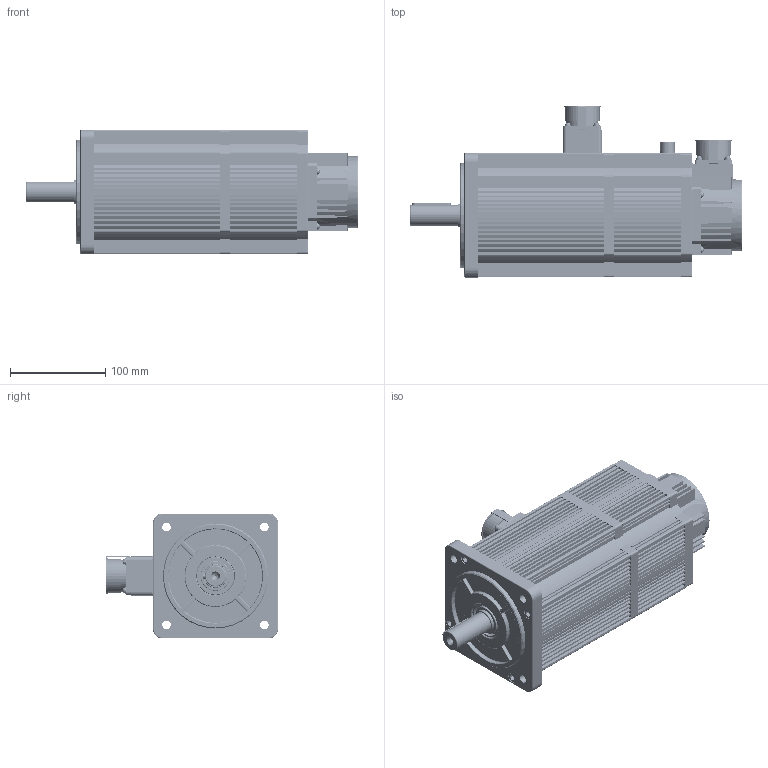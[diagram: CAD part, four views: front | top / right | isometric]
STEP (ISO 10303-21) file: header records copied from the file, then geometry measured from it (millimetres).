
FILE_DESCRIPTION (( 'STEP AP203' ), '1' );
FILE_NAME ('K1-130蚾饜10Nm 2500Rpm 惕掅.STEP', '2019-12-23T08:16:17', ( 'gs' ), ( 'Microsoft' ), 'SwSTEP 2.0', 'SolidWorks 2019', '' );
FILE_SCHEMA (( 'CONFIG_CONTROL_DESIGN' ));
Length unit declared in the file: millimetre
Products named in the file (28): M3X8囀鞠褒; M3X12啋儂; K1-130机壳加工后 抱闸 10Nm以上; K1-130ヶ傷裔 譙跡; M3す菜; K1-130す瑩; K1-130綴傷裔 陬諾; K1-130綴傷裔 惕掅(10Nm眕奻); M6粟菜; K1-130瑤脣砎蝶菜; K1-130粣 惕掅(10Nm 2500Rpm); K1-110晤鎢ん誘欶; M6X20; K1-130諉盄釱; K1-130蛌赽郪璃10Nm 2500Rpm 惕掅; K1-130密封圈; K1-130盄簽砎蝶菜; M3X8啋儂; K1-130瑤脣 惕掅(10Nm眕奻); K1-130誘欶躇猾菜; K1-130瑤脣15郋; M4X16啋儂; M6X100; K1-130儂褲樓馱綴10Nm 2500Rpm; curved single coil spring lock washers gb_GB_FASTENER_WASHER_CSLW 4; K1-130瑤脣雄薯盄; K1-130蚾饜10Nm 2500Rpm 惕掅; K1-130隅赽郪璃10Nm 2500Rpm
Assembly tree (82 placements, depth 3):
  K1-130蚾饜10Nm 2500Rpm 惕掅
    K1-130隅赽郪璃10Nm 2500Rpm
      K1-130儂褲樓馱綴10Nm 2500Rpm
    K1-130ヶ傷裔 譙跡
    K1-130綴傷裔 惕掅(10Nm眕奻)
    K1-110晤鎢ん誘欶
    K1-130密封圈
    K1-130誘欶躇猾菜
    curved single coil spring lock washers gb_GB_FASTENER_WASHER_CSLW 4  x17
    M3X8囀鞠褒
    M3す菜  x13
    M6粟菜  x8
    M6X20  x4
    K1-130盄簽砎蝶菜  x2
    K1-130瑤脣15郋
    M3X12啋儂  x8
    K1-130す瑩
    K1-130瑤脣砎蝶菜
    K1-130諉盄釱
    M3X8啋儂  x4
    M4X16啋儂  x4
    K1-130瑤脣雄薯盄
    K1-130机壳加工后 抱闸 10Nm以上
    K1-130綴傷裔 陬諾
    K1-130蛌赽郪璃10Nm 2500Rpm 惕掅
      K1-130粣 惕掅(10Nm 2500Rpm)
    K1-130瑤脣 惕掅(10Nm眕奻)
    M6X100  x4
Bounding box: 348 x 180.1 x 131 mm (x, y, z)
Volume: 1264556 mm3; surface area: 623216.4 mm2
Topology: 82 solids, 84 shells, 4271 faces, 11586 edges, 7623 vertices
Faces by surface type: cylinder 2475, plane 1468, bspline 169, cone 95, torus 64
Entity records: 146739 total; most frequent: CARTESIAN_POINT 76639, ORIENTED_EDGE 15024, DIRECTION 12499, EDGE_CURVE 7512, VERTEX_POINT 4933, AXIS2_PLACEMENT_3D 4273, LINE 3953, VECTOR 3953
